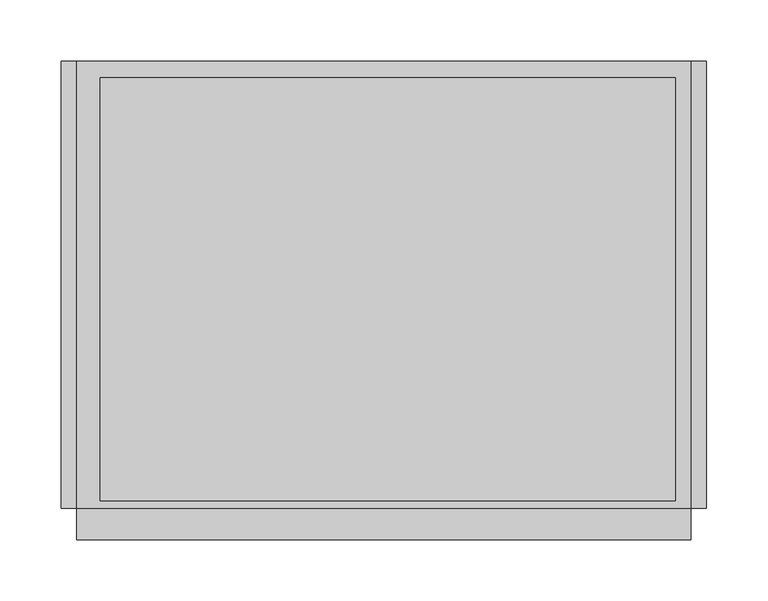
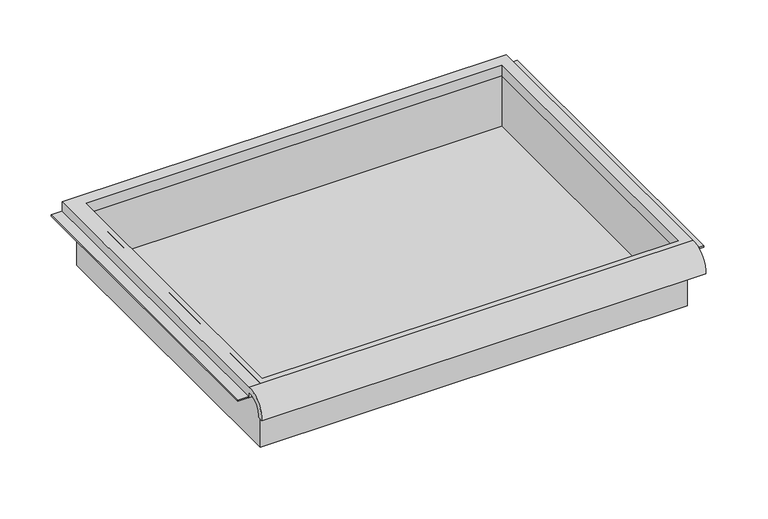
"""IFC4 building model written with IfcOpenShell, lengths in millimetres: furniture geometry."""

from ifc_helpers import new_model, si_unit, frame, origin, place, context, project, spatial, polyline, circle_curve, faceted_brep, source, transform, mapped, element, save
from ifc_brep_helpers import plane_surface, cylinder_surface, revolved_surface, advanced_brep


def furniture_2bba7109(model_context):
    return source(origin(), model_context, "Body", "SolidModel", [
        advanced_brep(
        [(263.7474999, -195.297482, 1013.6199118), (263.7474999, -188.9125, 1013.6199118), (263.7474999, -169.8625, 1031.881385), (263.7474999, -169.8625, 1025.5313846), (263.7474999, 195.2625, 1025.5313846), (263.7474999, 195.2625, 1038.231385), (263.7474999, -169.8625, 1038.231385), (-237.9025001, -195.297482, 1013.6199118), (-237.9025001, -169.8625, 1038.231385), (-237.9025001, 195.2625, 1038.231385), (-237.9025001, 195.2625, 1025.5313846), (-237.9025001, -169.8625, 1025.5313846), (-237.9025001, -169.8625, 1031.881385), (-237.9025001, -188.9125, 1013.6199118), (251.0474878, 181.9275, 1025.5313846), (-218.8095642, 181.9275, 1025.5313846), (-218.8095642, -163.5125, 1025.5313846), (251.0474878, -163.5125, 1025.5313846), (-218.8095642, 181.9275, 1038.231385), (251.0474878, 181.9275, 1038.231385), (251.0474878, -163.5125, 1038.231385), (-218.8095642, -163.5125, 1038.231385)],
        [
            (0, 1),
            (1, 2, circle_curve(frame((263.7474999, -172.3404634, 1015.3993222), z_axis=(-1.0, 0.0, 0.0), x_axis=(0.0, 1.0, 0.0)), 16.6672942)),
            (2, 3),
            (3, 4),
            (4, 5),
            (5, 6),
            (6, 0, circle_curve(frame((263.7474999, -172.4601678, 1015.4672122), z_axis=(1.0, 0.0, 0.0), x_axis=(0.0, 1.0, 0.0)), 22.9119061)),
            (7, 8, circle_curve(frame((-237.9025001, -172.4601678, 1015.4672122), z_axis=(-1.0, 0.0, 0.0), x_axis=(0.0, 1.0, 0.0)), 22.9119061)),
            (8, 9),
            (9, 10),
            (10, 11),
            (11, 12),
            (12, 13, circle_curve(frame((-237.9025001, -172.3404634, 1015.3993222), z_axis=(1.0, 0.0, 0.0), x_axis=(0.0, 1.0, 0.0)), 16.6672942)),
            (13, 7),
            (0, 7),
            (13, 1),
            (12, 2),
            (11, 3),
            (10, 4),
            (14, 15),
            (15, 16),
            (16, 17),
            (17, 14),
            (9, 5),
            (8, 6),
            (18, 19),
            (19, 20),
            (20, 21),
            (21, 18),
            (14, 19),
            (18, 15),
            (21, 16),
            (20, 17),
        ],
        [
            plane_surface(frame((263.7474999, -195.297482, 1013.6199118), z_axis=(1.0, 0.0, 0.0), x_axis=(0.0, 1.0, 0.0))),
            plane_surface(frame((-237.9025001, -195.297482, 1013.6199118), z_axis=(-1.0, 0.0, 0.0), x_axis=(0.0, -1.0, 0.0))),
            plane_surface(frame((263.7474999, -195.297482, 1013.6199118), z_axis=(0.0, 0.0, -1.0), x_axis=(-1.0, 0.0, 0.0))),
            revolved_surface(polyline([(-237.9025001, -155.67316920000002, 1015.3993222), (263.7474999, -155.67316920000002, 1015.3993222)]), (-237.9025001, -172.3404634, 1015.3993222), (-1.0, 0.0, 0.0)),
            plane_surface(frame((263.7474999, -169.8625, 1031.881385), z_axis=(0.0, -1.0, 0.0), x_axis=(-1.0, 0.0, 0.0))),
            plane_surface(frame((263.7474999, -169.8625, 1025.5313846), z_axis=(0.0, 0.0, -1.0), x_axis=(-1.0, 0.0, 0.0))),
            plane_surface(frame((263.7474999, 195.2625, 1025.5313846), z_axis=(0.0, 1.0, 0.0), x_axis=(-1.0, 0.0, 0.0))),
            plane_surface(frame((263.7474999, 195.2625, 1038.231385), z_axis=(0.0, 0.0, 1.0), x_axis=(-1.0, 0.0, 0.0))),
            cylinder_surface(frame((-237.9025001, -172.4601678, 1015.4672122), z_axis=(1.0, 0.0, 0.0), x_axis=(0.0, 1.0, 0.0)), 22.9119061),
            plane_surface(frame((251.0474878, 181.9275, 1038.231385), z_axis=(0.0, -1.0, 0.0), x_axis=(0.0, 0.0, -1.0))),
            plane_surface(frame((-218.8095642, 181.9275, 1038.231385), z_axis=(1.0, 0.0, 0.0), x_axis=(0.0, 0.0, -1.0))),
            plane_surface(frame((-218.8095642, -163.5125, 1038.231385), z_axis=(0.0, 1.0, 0.0), x_axis=(0.0, 0.0, -1.0))),
            plane_surface(frame((251.0474878, -163.5125, 1038.231385), z_axis=(-1.0, 0.0, 0.0), x_axis=(0.0, 0.0, -1.0))),
        ],
        [
            (0, [[1, 2, 3, 4, 5, 6, 7]]),
            (1, [[8, 9, 10, 11, 12, 13, 14]]),
            (2, [[-1, 15, -14, 16]]),
            (3, [[-2, -16, -13, 17]]),
            (4, [[-3, -17, -12, 18]]),
            (5, [[-4, -18, -11, 19], [20, 21, 22, 23]]),
            (6, [[-5, -19, -10, 24]]),
            (7, [[-6, -24, -9, 25], [26, 27, 28, 29]]),
            (8, [[-7, -25, -8, -15]]),
            (9, [[30, -26, 31, -20]]),
            (10, [[-31, -29, 32, -21]]),
            (11, [[-32, -28, 33, -22]]),
            (12, [[-30, -23, -33, -27]]),
        ],
    ),
        faceted_brep([(-225.2025001, -169.8625, 962.031385), (257.3974878, -169.8625, 962.031385), (257.3974878, -169.8625, 1038.231385), (-225.2025001, -169.8625, 1038.231385), (-225.2025001, 188.9125, 962.031385), (-225.2025001, 188.9125, 1038.231385), (257.3974878, 188.9125, 1038.231385), (257.3974878, 188.9125, 962.031385), (-218.8095642, 181.9275, 1038.231385), (251.0474878, 181.9275, 1038.231385), (251.0474878, -163.5125, 1038.231385), (-218.8095642, -163.5125, 1038.231385), (251.0474878, 181.9275, 965.206385), (-218.8095642, 181.9275, 965.206385), (-218.8095642, -163.5125, 965.206385), (251.0474878, -163.5125, 965.206385)], [[[0, 1, 2, 3]], [[4, 5, 6, 7]], [[1, 0, 4, 7]], [[2, 1, 7, 6]], [[3, 2, 6, 5], [8, 9, 10, 11]], [[0, 3, 5, 4]], [[12, 13, 14, 15]], [[13, 12, 9, 8]], [[14, 13, 8, 11]], [[15, 14, 11, 10]], [[12, 15, 10, 9]]]),
        faceted_brep([(-250.6025001, 195.2625, 1025.5313846), (-250.6025001, 195.2625, 1027.1188846), (-231.5525001, 195.2625, 1027.1188846), (-231.5525001, 195.2625, 1025.5313846), (-250.6025001, -169.8625, 1025.5313846), (-231.5525001, -169.8625, 1025.5313846), (-231.5525001, -169.8625, 1027.1188846), (-250.6025001, -169.8625, 1027.1188846)], [[[0, 1, 2, 3]], [[4, 5, 6, 7]], [[1, 0, 4, 7]], [[2, 1, 7, 6]], [[3, 2, 6, 5]], [[0, 3, 5, 4]]]),
        faceted_brep([(276.4474999, 195.2625, 1025.5313846), (263.7474999, 195.2625, 1025.5313846), (263.7474999, 195.2625, 1027.1188846), (276.4474999, 195.2625, 1027.1188846), (276.4474999, -169.8625, 1025.5313846), (276.4474999, -169.8625, 1027.1188846), (263.7474999, -169.8625, 1027.1188846), (263.7474999, -169.8625, 1025.5313846)], [[[0, 1, 2, 3]], [[4, 5, 6, 7]], [[1, 0, 4, 7]], [[2, 1, 7, 6]], [[3, 2, 6, 5]], [[0, 3, 5, 4]]]),
    ])


if __name__ == "__main__":
    model = new_model("IFC4")
    model_context = context("Model", 3, world=origin())
    ifc_project = project(units=[si_unit("LENGTHUNIT", "METRE", prefix="MILLI")], contexts=[model_context])
    site = spatial("IfcSite", under=ifc_project)
    building = spatial("IfcBuilding", under=site)
    placement = place(None, origin())
    furniture_shape = furniture_2bba7109(model_context)
    element("IfcFurniture", 1, ObjectType="HermanMiller_Carts_CT501_Drawer : 3\"H x 15\"D x 20\"W", at=placement, inside=building, context=model_context, shape_type="MappedRepresentation", body=[
        mapped(furniture_shape, transform((0.0, 0.0, 0.0), x_axis=(1.0, 0.0, 0.0), y_axis=(0.0, 1.0, 0.0), z_axis=(0.0, 0.0, 1.0))),
    ])
    save(model, "model.ifc")
